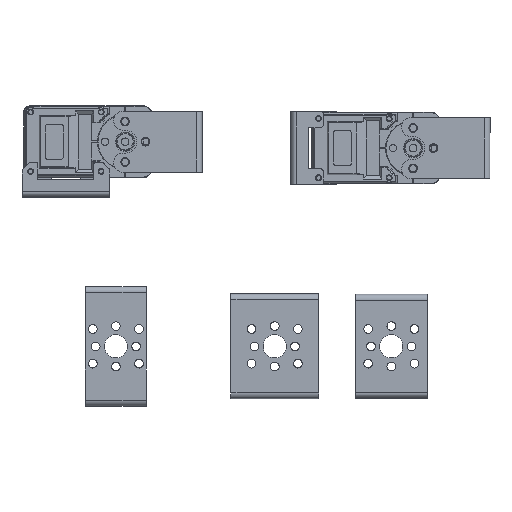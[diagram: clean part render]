
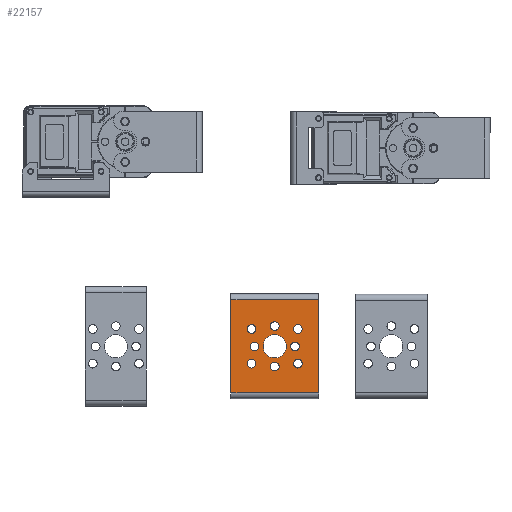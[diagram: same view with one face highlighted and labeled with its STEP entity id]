
A CAD part, front view. The second image highlights one B-rep face of the part: STEP entity #22157.
In plain terms, the highlighted planar face has unit normal (0, -1, 0).
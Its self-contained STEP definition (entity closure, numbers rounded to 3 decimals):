
#1104=FACE_BOUND('',#4184,.T.);
#1105=FACE_BOUND('',#4185,.T.);
#1106=FACE_BOUND('',#4186,.T.);
#1107=FACE_BOUND('',#4187,.T.);
#1108=FACE_BOUND('',#4188,.T.);
#1109=FACE_BOUND('',#4189,.T.);
#1110=FACE_BOUND('',#4190,.T.);
#1111=FACE_BOUND('',#4191,.T.);
#1112=FACE_BOUND('',#4192,.T.);
#1595=PLANE('',#24730);
#2808=FACE_OUTER_BOUND('',#4183,.T.);
#4183=EDGE_LOOP('',(#20405,#20406,#20407,#20408));
#4184=EDGE_LOOP('',(#20409));
#4185=EDGE_LOOP('',(#20410));
#4186=EDGE_LOOP('',(#20411));
#4187=EDGE_LOOP('',(#20412));
#4188=EDGE_LOOP('',(#20413));
#4189=EDGE_LOOP('',(#20414));
#4190=EDGE_LOOP('',(#20415));
#4191=EDGE_LOOP('',(#20416));
#4192=EDGE_LOOP('',(#20417));
#5784=LINE('',#55619,#7407);
#5806=LINE('',#55705,#7429);
#5807=LINE('',#55709,#7430);
#5815=LINE('',#55728,#7438);
#7407=VECTOR('',#30722,10.);
#7429=VECTOR('',#30822,10.);
#7430=VECTOR('',#30827,10.);
#7438=VECTOR('',#30857,10.);
#8465=CIRCLE('',#24690,1.5);
#8467=CIRCLE('',#24693,1.5);
#8469=CIRCLE('',#24696,1.5);
#8471=CIRCLE('',#24699,1.5);
#8473=CIRCLE('',#24702,1.5);
#8475=CIRCLE('',#24705,1.5);
#8477=CIRCLE('',#24708,1.5);
#8479=CIRCLE('',#24711,1.5);
#8481=CIRCLE('',#24714,4.);
#10601=VERTEX_POINT('',#55616);
#10602=VERTEX_POINT('',#55618);
#10610=VERTEX_POINT('',#55651);
#10612=VERTEX_POINT('',#55657);
#10614=VERTEX_POINT('',#55663);
#10616=VERTEX_POINT('',#55669);
#10618=VERTEX_POINT('',#55675);
#10620=VERTEX_POINT('',#55681);
#10622=VERTEX_POINT('',#55687);
#10624=VERTEX_POINT('',#55693);
#10626=VERTEX_POINT('',#55699);
#10627=VERTEX_POINT('',#55703);
#10628=VERTEX_POINT('',#55707);
#13837=EDGE_CURVE('',#10601,#10602,#5784,.T.);
#13855=EDGE_CURVE('',#10610,#10610,#8465,.T.);
#13858=EDGE_CURVE('',#10612,#10612,#8467,.T.);
#13861=EDGE_CURVE('',#10614,#10614,#8469,.T.);
#13864=EDGE_CURVE('',#10616,#10616,#8471,.T.);
#13867=EDGE_CURVE('',#10618,#10618,#8473,.T.);
#13870=EDGE_CURVE('',#10620,#10620,#8475,.T.);
#13873=EDGE_CURVE('',#10622,#10622,#8477,.T.);
#13876=EDGE_CURVE('',#10624,#10624,#8479,.T.);
#13879=EDGE_CURVE('',#10626,#10626,#8481,.T.);
#13881=EDGE_CURVE('',#10627,#10601,#5806,.T.);
#13883=EDGE_CURVE('',#10602,#10628,#5807,.T.);
#13891=EDGE_CURVE('',#10628,#10627,#5815,.T.);
#20405=ORIENTED_EDGE('',*,*,#13881,.F.);
#20406=ORIENTED_EDGE('',*,*,#13891,.F.);
#20407=ORIENTED_EDGE('',*,*,#13883,.F.);
#20408=ORIENTED_EDGE('',*,*,#13837,.F.);
#20409=ORIENTED_EDGE('',*,*,#13855,.T.);
#20410=ORIENTED_EDGE('',*,*,#13858,.T.);
#20411=ORIENTED_EDGE('',*,*,#13861,.T.);
#20412=ORIENTED_EDGE('',*,*,#13864,.T.);
#20413=ORIENTED_EDGE('',*,*,#13867,.T.);
#20414=ORIENTED_EDGE('',*,*,#13870,.T.);
#20415=ORIENTED_EDGE('',*,*,#13873,.T.);
#20416=ORIENTED_EDGE('',*,*,#13876,.T.);
#20417=ORIENTED_EDGE('',*,*,#13879,.T.);
#22157=ADVANCED_FACE('',(#2808,#1104,#1105,#1106,#1107,#1108,#1109,#1110,
#1111,#1112),#1595,.F.);
#24690=AXIS2_PLACEMENT_3D('',#55653,#30760,#30761);
#24693=AXIS2_PLACEMENT_3D('',#55659,#30767,#30768);
#24696=AXIS2_PLACEMENT_3D('',#55665,#30774,#30775);
#24699=AXIS2_PLACEMENT_3D('',#55671,#30781,#30782);
#24702=AXIS2_PLACEMENT_3D('',#55677,#30788,#30789);
#24705=AXIS2_PLACEMENT_3D('',#55683,#30795,#30796);
#24708=AXIS2_PLACEMENT_3D('',#55689,#30802,#30803);
#24711=AXIS2_PLACEMENT_3D('',#55695,#30809,#30810);
#24714=AXIS2_PLACEMENT_3D('',#55701,#30816,#30817);
#24730=AXIS2_PLACEMENT_3D('',#55729,#30858,#30859);
#30722=DIRECTION('',(0.,0.,1.));
#30760=DIRECTION('center_axis',(0.,1.,0.));
#30761=DIRECTION('ref_axis',(1.,0.,0.));
#30767=DIRECTION('center_axis',(0.,1.,0.));
#30768=DIRECTION('ref_axis',(1.,0.,0.));
#30774=DIRECTION('center_axis',(0.,1.,0.));
#30775=DIRECTION('ref_axis',(1.,0.,0.));
#30781=DIRECTION('center_axis',(0.,1.,0.));
#30782=DIRECTION('ref_axis',(1.,0.,0.));
#30788=DIRECTION('center_axis',(0.,1.,0.));
#30789=DIRECTION('ref_axis',(1.,0.,0.));
#30795=DIRECTION('center_axis',(0.,1.,0.));
#30796=DIRECTION('ref_axis',(1.,0.,0.));
#30802=DIRECTION('center_axis',(0.,1.,0.));
#30803=DIRECTION('ref_axis',(1.,0.,0.));
#30809=DIRECTION('center_axis',(0.,1.,0.));
#30810=DIRECTION('ref_axis',(1.,0.,0.));
#30816=DIRECTION('center_axis',(0.,1.,0.));
#30817=DIRECTION('ref_axis',(1.,0.,0.));
#30822=DIRECTION('',(-1.,0.,0.));
#30827=DIRECTION('',(1.,0.,0.));
#30857=DIRECTION('',(0.,0.,-1.));
#30858=DIRECTION('center_axis',(0.,1.,0.));
#30859=DIRECTION('ref_axis',(0.,0.,1.));
#55616=CARTESIAN_POINT('',(-15.15,0.,-16.15));
#55618=CARTESIAN_POINT('',(-15.15,0.,16.15));
#55619=CARTESIAN_POINT('',(-15.15,0.,-18.15));
#55651=CARTESIAN_POINT('',(-9.5,0.,-6.));
#55653=CARTESIAN_POINT('Origin',(-8.,0.,-6.));
#55657=CARTESIAN_POINT('',(6.5,0.,6.));
#55659=CARTESIAN_POINT('Origin',(8.,0.,6.));
#55663=CARTESIAN_POINT('',(5.5,0.,0.));
#55665=CARTESIAN_POINT('Origin',(7.,0.,0.));
#55669=CARTESIAN_POINT('',(-8.5,0.,0.));
#55671=CARTESIAN_POINT('Origin',(-7.,0.,0.));
#55675=CARTESIAN_POINT('',(-1.5,0.,-7.));
#55677=CARTESIAN_POINT('Origin',(0.,0.,-7.));
#55681=CARTESIAN_POINT('',(-1.5,0.,7.));
#55683=CARTESIAN_POINT('Origin',(0.,0.,7.));
#55687=CARTESIAN_POINT('',(6.5,0.,-6.));
#55689=CARTESIAN_POINT('Origin',(8.,0.,-6.));
#55693=CARTESIAN_POINT('',(-9.5,0.,6.));
#55695=CARTESIAN_POINT('Origin',(-8.,0.,6.));
#55699=CARTESIAN_POINT('',(-4.,0.,0.));
#55701=CARTESIAN_POINT('Origin',(0.,0.,0.));
#55703=CARTESIAN_POINT('',(15.15,0.,-16.15));
#55705=CARTESIAN_POINT('',(7.575,0.,-16.15));
#55707=CARTESIAN_POINT('',(15.15,0.,16.15));
#55709=CARTESIAN_POINT('',(-7.575,0.,16.15));
#55728=CARTESIAN_POINT('',(15.15,0.,18.15));
#55729=CARTESIAN_POINT('Origin',(0.,0.,0.));
